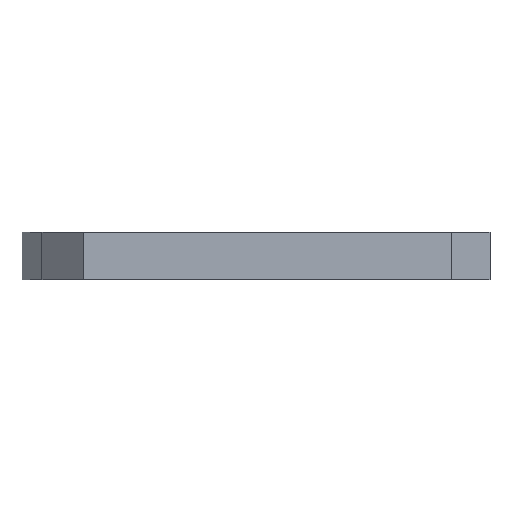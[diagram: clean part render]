
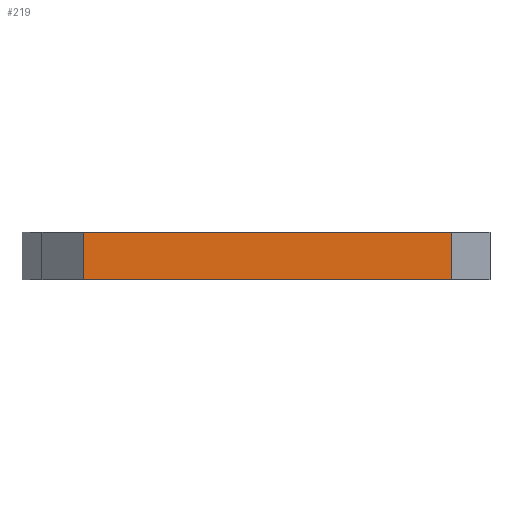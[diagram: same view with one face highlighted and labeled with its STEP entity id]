
A CAD part, front view. The second image highlights one B-rep face of the part: STEP entity #219.
In plain terms, the highlighted planar face has unit normal (0.036, -0.999, 0).
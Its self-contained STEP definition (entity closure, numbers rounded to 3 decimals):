
#219=ADVANCED_FACE('Pad.1',(#515),#516,.F.);
#515=FACE_OUTER_BOUND('',#855,.T.);
#516=PLANE('',#856);
#855=EDGE_LOOP('',(#1539,#1540,#1541,#1542));
#856=AXIS2_PLACEMENT_3D('',#1543,#1544,#1545);
#1539=ORIENTED_EDGE('',*,*,#2239,.F.);
#1540=ORIENTED_EDGE('',*,*,#2196,.T.);
#1541=ORIENTED_EDGE('',*,*,#2237,.T.);
#1542=ORIENTED_EDGE('',*,*,#2157,.F.);
#1543=CARTESIAN_POINT('',(84.331,-132.156,0.0));
#1544=DIRECTION('',(-0.036,0.999,0.0));
#1545=DIRECTION('',(-0.999,-0.036,0.0));
#2157=EDGE_CURVE('',#2664,#2666,#2667,.F.);
#2196=EDGE_CURVE('',#2727,#2725,#2728,.F.);
#2237=EDGE_CURVE('',#2725,#2666,#2788,.T.);
#2239=EDGE_CURVE('',#2727,#2664,#2790,.T.);
#2664=VERTEX_POINT('',#3291);
#2666=VERTEX_POINT('',#3294);
#2667=LINE('',#3295,#3296);
#2725=VERTEX_POINT('',#3358);
#2727=VERTEX_POINT('',#3361);
#2728=LINE('',#3362,#3363);
#2788=LINE('',#3429,#3430);
#2790=LINE('',#3432,#3433);
#3291=CARTESIAN_POINT('',(-100.546,-138.907,24.0));
#3294=CARTESIAN_POINT('',(84.331,-132.156,24.0));
#3295=CARTESIAN_POINT('',(-8.108,-135.532,24.0));
#3296=VECTOR('',#3889,1.0);
#3358=CARTESIAN_POINT('',(84.331,-132.156,0.0));
#3361=CARTESIAN_POINT('',(-100.546,-138.907,0.0));
#3362=CARTESIAN_POINT('',(-8.108,-135.532,0.0));
#3363=VECTOR('',#3991,1.0);
#3429=CARTESIAN_POINT('',(84.331,-132.156,12.0));
#3430=VECTOR('',#4094,1.0);
#3432=CARTESIAN_POINT('',(-100.546,-138.907,12.0));
#3433=VECTOR('',#4095,1.0);
#3889=DIRECTION('',(-0.999,-0.036,0.0));
#3991=DIRECTION('',(-0.999,-0.036,0.0));
#4094=DIRECTION('',(0.0,0.0,1.0));
#4095=DIRECTION('',(0.0,0.0,1.0));
